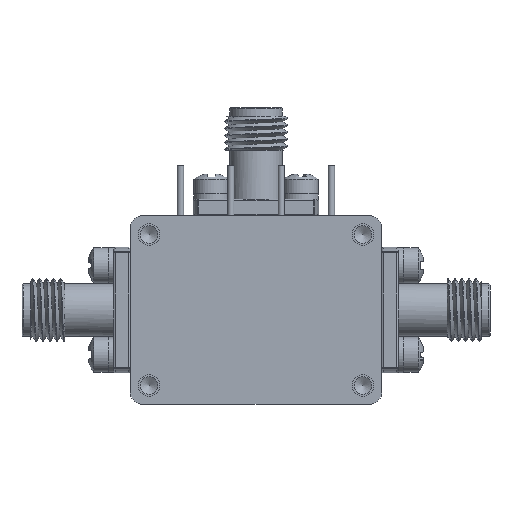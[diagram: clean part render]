
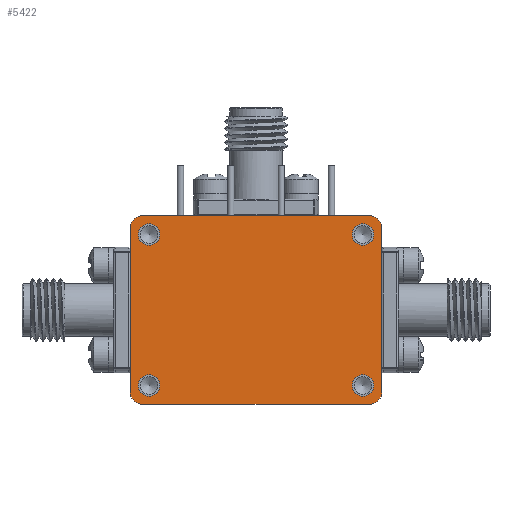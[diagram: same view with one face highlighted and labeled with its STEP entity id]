
A CAD part, front view. The second image highlights one B-rep face of the part: STEP entity #5422.
In plain terms, the highlighted planar face has unit normal (0, -1, 0).
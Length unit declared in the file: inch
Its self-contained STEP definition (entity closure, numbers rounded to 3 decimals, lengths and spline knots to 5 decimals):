
#19 = FACE_BOUND ( 'NONE', #41018, .T. ) ;
#399 = AXIS2_PLACEMENT_3D ( 'NONE', #5275, #35827, #22406 ) ;
#592 = CARTESIAN_POINT ( 'NONE',  ( -0.425, -0.4, -0.343 ) ) ;
#831 = CARTESIAN_POINT ( 'NONE',  ( -0.45, -0.4, 0.375 ) ) ;
#876 = AXIS2_PLACEMENT_3D ( 'NONE', #35139, #1985, #35557 ) ;
#1028 = AXIS2_PLACEMENT_3D ( 'NONE', #31386, #21269, #21690 ) ;
#1243 = DIRECTION ( 'NONE',  ( 0., -1., 0. ) ) ;
#1434 = ORIENTED_EDGE ( 'NONE', *, *, #29471, .F. ) ;
#1513 = VERTEX_POINT ( 'NONE', #10653 ) ;
#1985 = DIRECTION ( 'NONE',  ( 0., 1., 0. ) ) ;
#2216 = VERTEX_POINT ( 'NONE', #20875 ) ;
#2299 = DIRECTION ( 'NONE',  ( 0., 0., 1. ) ) ;
#2458 = CARTESIAN_POINT ( 'NONE',  ( 0.45, -0.4, 0.375 ) ) ;
#2591 = LINE ( 'NONE', #3004, #9366 ) ;
#2859 = EDGE_CURVE ( 'NONE', #14168, #1513, #11465, .T. ) ;
#3004 = CARTESIAN_POINT ( 'NONE',  ( -0.45, -0.4, -0.375 ) ) ;
#3140 = EDGE_CURVE ( 'NONE', #8912, #8912, #41627, .T. ) ;
#3705 = DIRECTION ( 'NONE',  ( 0., -1., 0. ) ) ;
#4911 = ORIENTED_EDGE ( 'NONE', *, *, #20968, .F. ) ;
#5275 = CARTESIAN_POINT ( 'NONE',  ( -0.425, -0.4, 0.3 ) ) ;
#5422 = ADVANCED_FACE ( 'NONE', ( #16058, #42323, #25808, #19, #42531 ), #22586, .T. ) ;
#5850 = EDGE_LOOP ( 'NONE', ( #40256, #15724, #40344, #9682, #6868, #35276, #1434, #19255 ) ) ;
#6868 = ORIENTED_EDGE ( 'NONE', *, *, #37954, .F. ) ;
#7683 = VECTOR ( 'NONE', #41994, 39.37008 ) ;
#8072 = EDGE_CURVE ( 'NONE', #22260, #24879, #34445, .T. ) ;
#8912 = VERTEX_POINT ( 'NONE', #38183 ) ;
#9366 = VECTOR ( 'NONE', #39034, 39.37008 ) ;
#9682 = ORIENTED_EDGE ( 'NONE', *, *, #8072, .F. ) ;
#10653 = CARTESIAN_POINT ( 'NONE',  ( 0.5, -0.4, -0.325 ) ) ;
#11326 = CIRCLE ( 'NONE', #876, 0.05 ) ;
#11465 = LINE ( 'NONE', #14896, #7683 ) ;
#11705 = AXIS2_PLACEMENT_3D ( 'NONE', #16034, #35985, #29213 ) ;
#11860 = EDGE_CURVE ( 'NONE', #1513, #2216, #39824, .T. ) ;
#11970 = EDGE_CURVE ( 'NONE', #2216, #29357, #2591, .T. ) ;
#12024 = CARTESIAN_POINT ( 'NONE',  ( -0.5, -0.4, -0.325 ) ) ;
#13086 = LINE ( 'NONE', #19817, #41609 ) ;
#13744 = CARTESIAN_POINT ( 'NONE',  ( 0.425, -0.4, 0.257 ) ) ;
#14168 = VERTEX_POINT ( 'NONE', #20001 ) ;
#14896 = CARTESIAN_POINT ( 'NONE',  ( 0.5, -0.4, -0.325 ) ) ;
#15724 = ORIENTED_EDGE ( 'NONE', *, *, #2859, .F. ) ;
#16034 = CARTESIAN_POINT ( 'NONE',  ( -0.425, -0.4, -0.3 ) ) ;
#16058 = FACE_BOUND ( 'NONE', #21493, .T. ) ;
#16762 = VERTEX_POINT ( 'NONE', #13744 ) ;
#16817 = AXIS2_PLACEMENT_3D ( 'NONE', #24489, #3705, #27715 ) ;
#16963 = ORIENTED_EDGE ( 'NONE', *, *, #3140, .F. ) ;
#17092 = VERTEX_POINT ( 'NONE', #17305 ) ;
#17305 = CARTESIAN_POINT ( 'NONE',  ( -0.425, -0.4, 0.257 ) ) ;
#19145 = CIRCLE ( 'NONE', #399, 0.043 ) ;
#19255 = ORIENTED_EDGE ( 'NONE', *, *, #11970, .F. ) ;
#19817 = CARTESIAN_POINT ( 'NONE',  ( -0.5, -0.4, -0.325 ) ) ;
#20001 = CARTESIAN_POINT ( 'NONE',  ( 0.5, -0.4, 0.325 ) ) ;
#20155 = DIRECTION ( 'NONE',  ( 0., 0., 1. ) ) ;
#20360 = EDGE_CURVE ( 'NONE', #37480, #37480, #42177, .T. ) ;
#20370 = AXIS2_PLACEMENT_3D ( 'NONE', #30474, #36186, #20155 ) ;
#20552 = CARTESIAN_POINT ( 'NONE',  ( -0.45, -0.4, -0.375 ) ) ;
#20553 = AXIS2_PLACEMENT_3D ( 'NONE', #39382, #38956, #2299 ) ;
#20875 = CARTESIAN_POINT ( 'NONE',  ( 0.45, -0.4, -0.375 ) ) ;
#20968 = EDGE_CURVE ( 'NONE', #17092, #17092, #19145, .T. ) ;
#21269 = DIRECTION ( 'NONE',  ( 0., 1., 0. ) ) ;
#21493 = EDGE_LOOP ( 'NONE', ( #21494 ) ) ;
#21494 = ORIENTED_EDGE ( 'NONE', *, *, #38512, .F. ) ;
#21690 = DIRECTION ( 'NONE',  ( 0., 0., -1. ) ) ;
#22260 = VERTEX_POINT ( 'NONE', #31584 ) ;
#22406 = DIRECTION ( 'NONE',  ( 0., 0., -1. ) ) ;
#22414 = AXIS2_PLACEMENT_3D ( 'NONE', #32977, #23039, #36693 ) ;
#22586 = PLANE ( 'NONE',  #16817 ) ;
#23039 = DIRECTION ( 'NONE',  ( 0., -1., 0. ) ) ;
#23111 = CIRCLE ( 'NONE', #20370, 0.05 ) ;
#23417 = EDGE_LOOP ( 'NONE', ( #16963 ) ) ;
#24489 = CARTESIAN_POINT ( 'NONE',  ( 0.45, -0.4, -0.325 ) ) ;
#24879 = VERTEX_POINT ( 'NONE', #2458 ) ;
#25145 = EDGE_LOOP ( 'NONE', ( #34430 ) ) ;
#25808 = FACE_BOUND ( 'NONE', #25145, .T. ) ;
#27161 = VERTEX_POINT ( 'NONE', #36761 ) ;
#27715 = DIRECTION ( 'NONE',  ( 0., 0., -1. ) ) ;
#29112 = AXIS2_PLACEMENT_3D ( 'NONE', #37242, #1243, #33956 ) ;
#29213 = DIRECTION ( 'NONE',  ( 0., 0., -1. ) ) ;
#29357 = VERTEX_POINT ( 'NONE', #20552 ) ;
#29471 = EDGE_CURVE ( 'NONE', #29357, #42809, #37152, .T. ) ;
#29937 = DIRECTION ( 'NONE',  ( 0., 0., 1. ) ) ;
#30474 = CARTESIAN_POINT ( 'NONE',  ( 0.45, -0.4, 0.325 ) ) ;
#30619 = VECTOR ( 'NONE', #33783, 39.37008 ) ;
#31386 = CARTESIAN_POINT ( 'NONE',  ( 0.45, -0.4, -0.325 ) ) ;
#31584 = CARTESIAN_POINT ( 'NONE',  ( -0.45, -0.4, 0.375 ) ) ;
#32977 = CARTESIAN_POINT ( 'NONE',  ( 0.425, -0.4, 0.3 ) ) ;
#33783 = DIRECTION ( 'NONE',  ( 1., 0., 0. ) ) ;
#33956 = DIRECTION ( 'NONE',  ( 0., 0., -1. ) ) ;
#34430 = ORIENTED_EDGE ( 'NONE', *, *, #20360, .F. ) ;
#34445 = LINE ( 'NONE', #831, #30619 ) ;
#35139 = CARTESIAN_POINT ( 'NONE',  ( -0.45, -0.4, 0.325 ) ) ;
#35276 = ORIENTED_EDGE ( 'NONE', *, *, #41214, .F. ) ;
#35545 = CIRCLE ( 'NONE', #22414, 0.043 ) ;
#35557 = DIRECTION ( 'NONE',  ( 0., 0., 1. ) ) ;
#35827 = DIRECTION ( 'NONE',  ( 0., -1., 0. ) ) ;
#35985 = DIRECTION ( 'NONE',  ( 0., -1., 0. ) ) ;
#36186 = DIRECTION ( 'NONE',  ( 0., 1., 0. ) ) ;
#36693 = DIRECTION ( 'NONE',  ( 0., 0., -1. ) ) ;
#36761 = CARTESIAN_POINT ( 'NONE',  ( -0.5, -0.4, 0.325 ) ) ;
#37152 = CIRCLE ( 'NONE', #20553, 0.05 ) ;
#37242 = CARTESIAN_POINT ( 'NONE',  ( 0.425, -0.4, -0.3 ) ) ;
#37480 = VERTEX_POINT ( 'NONE', #592 ) ;
#37954 = EDGE_CURVE ( 'NONE', #27161, #22260, #11326, .T. ) ;
#38183 = CARTESIAN_POINT ( 'NONE',  ( 0.425, -0.4, -0.343 ) ) ;
#38512 = EDGE_CURVE ( 'NONE', #16762, #16762, #35545, .T. ) ;
#38780 = EDGE_CURVE ( 'NONE', #24879, #14168, #23111, .T. ) ;
#38956 = DIRECTION ( 'NONE',  ( 0., 1., 0. ) ) ;
#39034 = DIRECTION ( 'NONE',  ( -1., 0., 0. ) ) ;
#39382 = CARTESIAN_POINT ( 'NONE',  ( -0.45, -0.4, -0.325 ) ) ;
#39824 = CIRCLE ( 'NONE', #1028, 0.05 ) ;
#40256 = ORIENTED_EDGE ( 'NONE', *, *, #11860, .F. ) ;
#40344 = ORIENTED_EDGE ( 'NONE', *, *, #38780, .F. ) ;
#41018 = EDGE_LOOP ( 'NONE', ( #4911 ) ) ;
#41214 = EDGE_CURVE ( 'NONE', #42809, #27161, #13086, .T. ) ;
#41609 = VECTOR ( 'NONE', #29937, 39.37008 ) ;
#41627 = CIRCLE ( 'NONE', #29112, 0.043 ) ;
#41994 = DIRECTION ( 'NONE',  ( 0., 0., -1. ) ) ;
#42177 = CIRCLE ( 'NONE', #11705, 0.043 ) ;
#42323 = FACE_BOUND ( 'NONE', #23417, .T. ) ;
#42531 = FACE_OUTER_BOUND ( 'NONE', #5850, .T. ) ;
#42809 = VERTEX_POINT ( 'NONE', #12024 ) ;
